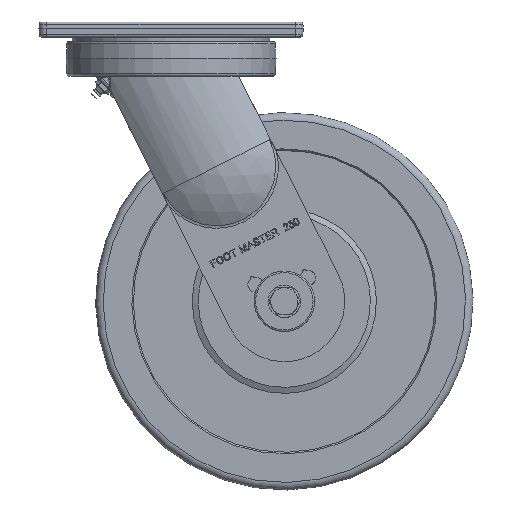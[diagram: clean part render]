
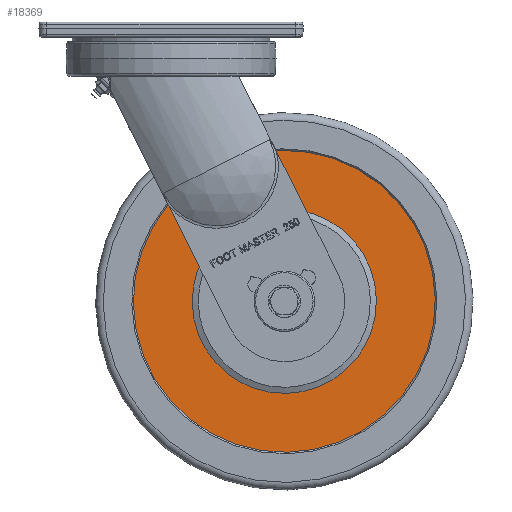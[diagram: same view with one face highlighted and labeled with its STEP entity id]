
A CAD part, front view. The second image highlights one B-rep face of the part: STEP entity #18369.
In plain terms, the highlighted planar face has unit normal (0, -1, 0).
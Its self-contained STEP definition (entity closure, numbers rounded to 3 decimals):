
#968=FACE_BOUND('',#3895,.T.);
#1625=CIRCLE('',#19325,61.);
#1626=CIRCLE('',#19326,61.);
#1653=CIRCLE('',#19364,100.);
#1654=CIRCLE('',#19365,100.);
#2796=FACE_OUTER_BOUND('',#3894,.T.);
#3894=EDGE_LOOP('',(#16838,#16839));
#3895=EDGE_LOOP('',(#16840,#16841));
#8752=VERTEX_POINT('',#32756);
#8753=VERTEX_POINT('',#32757);
#8778=VERTEX_POINT('',#32825);
#8779=VERTEX_POINT('',#32826);
#11446=EDGE_CURVE('',#8752,#8753,#1625,.T.);
#11447=EDGE_CURVE('',#8753,#8752,#1626,.T.);
#11478=EDGE_CURVE('',#8778,#8779,#1653,.T.);
#11480=EDGE_CURVE('',#8779,#8778,#1654,.T.);
#16838=ORIENTED_EDGE('',*,*,#11478,.F.);
#16839=ORIENTED_EDGE('',*,*,#11480,.F.);
#16840=ORIENTED_EDGE('',*,*,#11446,.T.);
#16841=ORIENTED_EDGE('',*,*,#11447,.T.);
#17372=PLANE('',#19366);
#18369=ADVANCED_FACE('',(#2796,#968),#17372,.T.);
#19325=AXIS2_PLACEMENT_3D('',#32758,#22765,#22766);
#19326=AXIS2_PLACEMENT_3D('',#32759,#22767,#22768);
#19364=AXIS2_PLACEMENT_3D('',#32827,#22847,#22848);
#19365=AXIS2_PLACEMENT_3D('',#32829,#22850,#22851);
#19366=AXIS2_PLACEMENT_3D('',#32830,#22852,#22853);
#22765=DIRECTION('center_axis',(0.,1.,0.));
#22766=DIRECTION('ref_axis',(0.019,0.,-1.));
#22767=DIRECTION('center_axis',(0.,1.,0.));
#22768=DIRECTION('ref_axis',(0.019,0.,-1.));
#22847=DIRECTION('center_axis',(0.,1.,0.));
#22848=DIRECTION('ref_axis',(0.019,0.,-1.));
#22850=DIRECTION('center_axis',(0.,1.,0.));
#22851=DIRECTION('ref_axis',(0.019,0.,-1.));
#22852=DIRECTION('center_axis',(0.,-1.,0.));
#22853=DIRECTION('ref_axis',(-0.019,0.,1.));
#32756=CARTESIAN_POINT('',(14.011,-33.,-182.132));
#32757=CARTESIAN_POINT('',(135.989,-33.,-179.867));
#32758=CARTESIAN_POINT('Origin',(75.,-33.,-181.));
#32759=CARTESIAN_POINT('Origin',(75.,-33.,-181.));
#32825=CARTESIAN_POINT('',(-24.983,-33.,-182.857));
#32826=CARTESIAN_POINT('',(174.983,-33.,-179.143));
#32827=CARTESIAN_POINT('Origin',(75.,-33.,-181.));
#32829=CARTESIAN_POINT('Origin',(75.,-33.,-181.));
#32830=CARTESIAN_POINT('Origin',(-24.983,-33.,-182.857));
